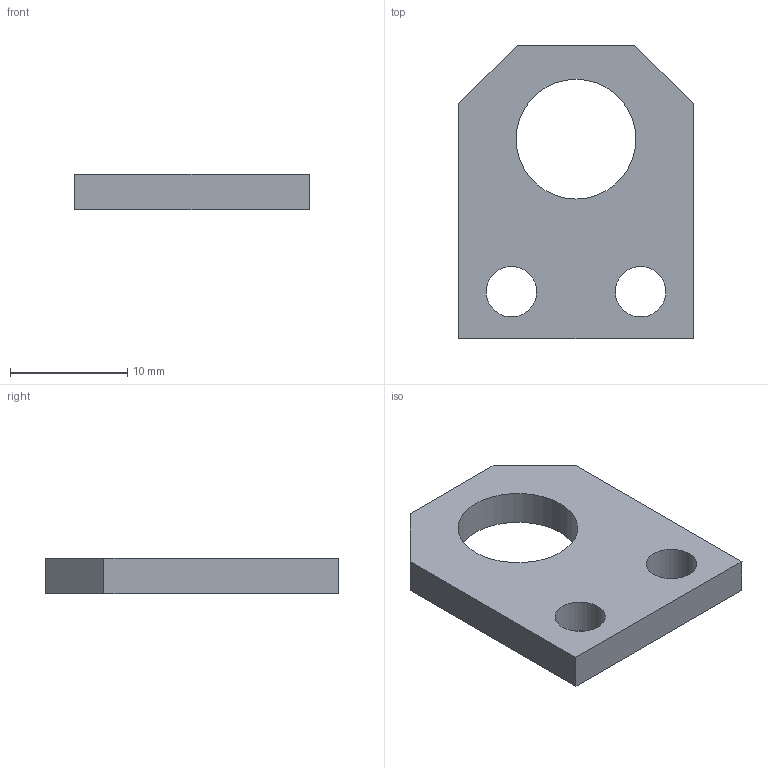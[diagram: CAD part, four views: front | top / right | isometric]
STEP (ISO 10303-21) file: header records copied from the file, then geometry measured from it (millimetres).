
FILE_DESCRIPTION (( 'STEP AP203' ), '1' );
FILE_NAME ('ORW-72.24.20.40.002 砑鳧罻.STEP', '2025-10-13T13:18:10', ( '燴僽樥' ), ( '' ), 'SwSTEP 2.0', 'SolidWorks 2025', '' );
FILE_SCHEMA (( 'CONFIG_CONTROL_DESIGN' ));
Length unit declared in the file: millimetre
Products named in the file (1): ORW-72.24.20.40.002 Планка
Bounding box: 20 x 25 x 3 mm (x, y, z)
Volume: 1092.7 mm3; surface area: 1158.1 mm2
Topology: 1 solids, 1 shells, 11 faces, 27 edges, 18 vertices
Faces by surface type: plane 8, cylinder 3
Full cylindrical faces by diameter (mm): 4.3 x2, 10.2 x1
Entity records: 399 total; most frequent: DIRECTION 54, CARTESIAN_POINT 54, ORIENTED_EDGE 48, EDGE_CURVE 24, EDGE_LOOP 20, AXIS2_PLACEMENT_3D 18, VECTOR 18, VERTEX_POINT 18
